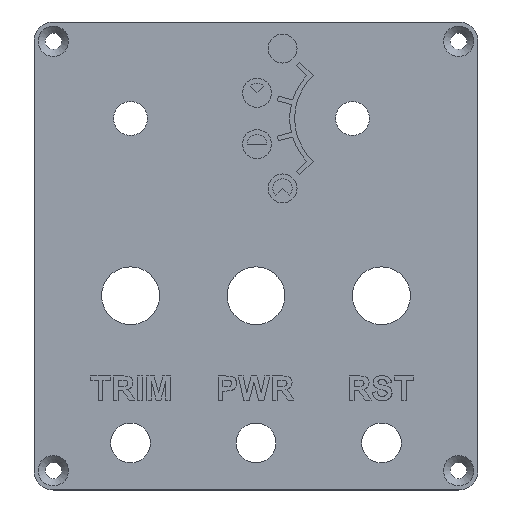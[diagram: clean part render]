
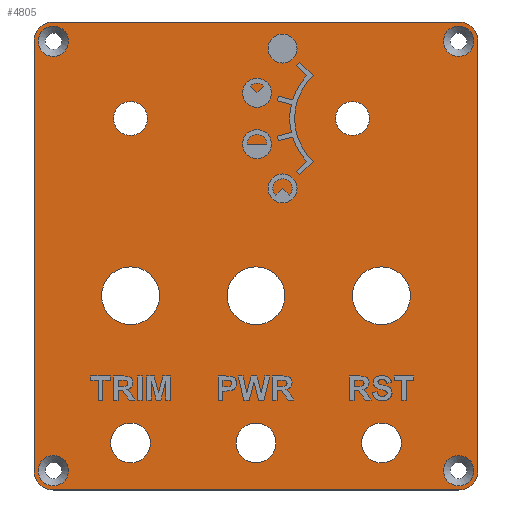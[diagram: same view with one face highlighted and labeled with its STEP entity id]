
A CAD part, top view. The second image highlights one B-rep face of the part: STEP entity #4805.
In plain terms, the highlighted planar face has unit normal (0, 0, 1).
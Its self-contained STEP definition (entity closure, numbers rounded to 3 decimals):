
#307=FACE_BOUND('',#964,.T.);
#308=FACE_BOUND('',#965,.T.);
#309=FACE_BOUND('',#966,.T.);
#310=FACE_BOUND('',#967,.T.);
#311=FACE_BOUND('',#968,.T.);
#312=FACE_BOUND('',#969,.T.);
#313=FACE_BOUND('',#970,.T.);
#314=FACE_BOUND('',#971,.T.);
#315=FACE_BOUND('',#972,.T.);
#316=FACE_BOUND('',#973,.T.);
#317=FACE_BOUND('',#974,.T.);
#318=FACE_BOUND('',#975,.T.);
#387=CIRCLE('',#5030,4.);
#388=CIRCLE('',#5033,4.);
#389=CIRCLE('',#5034,4.);
#390=CIRCLE('',#5035,4.);
#391=CIRCLE('',#5036,3.15);
#392=CIRCLE('',#5037,3.15);
#393=CIRCLE('',#5038,3.15);
#394=CIRCLE('',#5039,3.15);
#395=CIRCLE('',#5040,6.);
#396=CIRCLE('',#5041,4.125);
#397=CIRCLE('',#5042,4.125);
#398=CIRCLE('',#5043,6.);
#399=CIRCLE('',#5044,4.125);
#400=CIRCLE('',#5045,3.5);
#401=CIRCLE('',#5046,6.);
#402=CIRCLE('',#5047,3.5);
#687=FACE_OUTER_BOUND('',#963,.T.);
#963=EDGE_LOOP('',(#4297,#4298,#4299,#4300,#4301,#4302,#4303,#4304));
#964=EDGE_LOOP('',(#4305));
#965=EDGE_LOOP('',(#4306));
#966=EDGE_LOOP('',(#4307));
#967=EDGE_LOOP('',(#4308));
#968=EDGE_LOOP('',(#4309));
#969=EDGE_LOOP('',(#4310));
#970=EDGE_LOOP('',(#4311));
#971=EDGE_LOOP('',(#4312));
#972=EDGE_LOOP('',(#4313));
#973=EDGE_LOOP('',(#4314));
#974=EDGE_LOOP('',(#4315));
#975=EDGE_LOOP('',(#4316));
#1431=LINE('',#8804,#1881);
#1434=LINE('',#8810,#1884);
#1435=LINE('',#8814,#1885);
#1436=LINE('',#8818,#1886);
#1881=VECTOR('',#5862,10.);
#1884=VECTOR('',#5867,10.);
#1885=VECTOR('',#5870,10.);
#1886=VECTOR('',#5873,10.);
#2325=VERTEX_POINT('',#8797);
#2326=VERTEX_POINT('',#8799);
#2327=VERTEX_POINT('',#8803);
#2329=VERTEX_POINT('',#8809);
#2330=VERTEX_POINT('',#8811);
#2331=VERTEX_POINT('',#8813);
#2332=VERTEX_POINT('',#8815);
#2333=VERTEX_POINT('',#8817);
#2334=VERTEX_POINT('',#8820);
#2335=VERTEX_POINT('',#8822);
#2336=VERTEX_POINT('',#8824);
#2337=VERTEX_POINT('',#8826);
#2338=VERTEX_POINT('',#8828);
#2339=VERTEX_POINT('',#8830);
#2340=VERTEX_POINT('',#8832);
#2341=VERTEX_POINT('',#8834);
#2342=VERTEX_POINT('',#8836);
#2343=VERTEX_POINT('',#8838);
#2344=VERTEX_POINT('',#8840);
#2345=VERTEX_POINT('',#8842);
#2987=EDGE_CURVE('',#2325,#2326,#387,.T.);
#2989=EDGE_CURVE('',#2326,#2327,#1431,.T.);
#2992=EDGE_CURVE('',#2329,#2325,#1434,.T.);
#2993=EDGE_CURVE('',#2330,#2329,#388,.T.);
#2994=EDGE_CURVE('',#2331,#2330,#1435,.T.);
#2995=EDGE_CURVE('',#2332,#2331,#389,.T.);
#2996=EDGE_CURVE('',#2333,#2332,#1436,.T.);
#2997=EDGE_CURVE('',#2327,#2333,#390,.T.);
#2998=EDGE_CURVE('',#2334,#2334,#391,.T.);
#2999=EDGE_CURVE('',#2335,#2335,#392,.T.);
#3000=EDGE_CURVE('',#2336,#2336,#393,.T.);
#3001=EDGE_CURVE('',#2337,#2337,#394,.T.);
#3002=EDGE_CURVE('',#2338,#2338,#395,.T.);
#3003=EDGE_CURVE('',#2339,#2339,#396,.T.);
#3004=EDGE_CURVE('',#2340,#2340,#397,.T.);
#3005=EDGE_CURVE('',#2341,#2341,#398,.T.);
#3006=EDGE_CURVE('',#2342,#2342,#399,.T.);
#3007=EDGE_CURVE('',#2343,#2343,#400,.T.);
#3008=EDGE_CURVE('',#2344,#2344,#401,.T.);
#3009=EDGE_CURVE('',#2345,#2345,#402,.T.);
#4297=ORIENTED_EDGE('',*,*,#2987,.F.);
#4298=ORIENTED_EDGE('',*,*,#2992,.F.);
#4299=ORIENTED_EDGE('',*,*,#2993,.F.);
#4300=ORIENTED_EDGE('',*,*,#2994,.F.);
#4301=ORIENTED_EDGE('',*,*,#2995,.F.);
#4302=ORIENTED_EDGE('',*,*,#2996,.F.);
#4303=ORIENTED_EDGE('',*,*,#2997,.F.);
#4304=ORIENTED_EDGE('',*,*,#2989,.F.);
#4305=ORIENTED_EDGE('',*,*,#2998,.T.);
#4306=ORIENTED_EDGE('',*,*,#2999,.T.);
#4307=ORIENTED_EDGE('',*,*,#3000,.T.);
#4308=ORIENTED_EDGE('',*,*,#3001,.T.);
#4309=ORIENTED_EDGE('',*,*,#3002,.T.);
#4310=ORIENTED_EDGE('',*,*,#3003,.T.);
#4311=ORIENTED_EDGE('',*,*,#3004,.T.);
#4312=ORIENTED_EDGE('',*,*,#3005,.T.);
#4313=ORIENTED_EDGE('',*,*,#3006,.T.);
#4314=ORIENTED_EDGE('',*,*,#3007,.T.);
#4315=ORIENTED_EDGE('',*,*,#3008,.T.);
#4316=ORIENTED_EDGE('',*,*,#3009,.T.);
#4562=PLANE('',#5032);
#4805=ADVANCED_FACE('',(#687,#307,#308,#309,#310,#311,#312,#313,#314,#315,
#316,#317,#318),#4562,.T.);
#5030=AXIS2_PLACEMENT_3D('',#8800,#5857,#5858);
#5032=AXIS2_PLACEMENT_3D('',#8808,#5865,#5866);
#5033=AXIS2_PLACEMENT_3D('',#8812,#5868,#5869);
#5034=AXIS2_PLACEMENT_3D('',#8816,#5871,#5872);
#5035=AXIS2_PLACEMENT_3D('',#8819,#5874,#5875);
#5036=AXIS2_PLACEMENT_3D('',#8821,#5876,#5877);
#5037=AXIS2_PLACEMENT_3D('',#8823,#5878,#5879);
#5038=AXIS2_PLACEMENT_3D('',#8825,#5880,#5881);
#5039=AXIS2_PLACEMENT_3D('',#8827,#5882,#5883);
#5040=AXIS2_PLACEMENT_3D('',#8829,#5884,#5885);
#5041=AXIS2_PLACEMENT_3D('',#8831,#5886,#5887);
#5042=AXIS2_PLACEMENT_3D('',#8833,#5888,#5889);
#5043=AXIS2_PLACEMENT_3D('',#8835,#5890,#5891);
#5044=AXIS2_PLACEMENT_3D('',#8837,#5892,#5893);
#5045=AXIS2_PLACEMENT_3D('',#8839,#5894,#5895);
#5046=AXIS2_PLACEMENT_3D('',#8841,#5896,#5897);
#5047=AXIS2_PLACEMENT_3D('',#8843,#5898,#5899);
#5857=DIRECTION('center_axis',(0.,0.,-1.));
#5858=DIRECTION('ref_axis',(0.707,0.707,0.));
#5862=DIRECTION('',(0.,-1.,0.));
#5865=DIRECTION('center_axis',(0.,0.,1.));
#5866=DIRECTION('ref_axis',(1.,0.,0.));
#5867=DIRECTION('',(1.,0.,0.));
#5868=DIRECTION('center_axis',(0.,0.,-1.));
#5869=DIRECTION('ref_axis',(-0.707,0.707,0.));
#5870=DIRECTION('',(0.,1.,0.));
#5871=DIRECTION('center_axis',(0.,0.,-1.));
#5872=DIRECTION('ref_axis',(-0.707,-0.707,0.));
#5873=DIRECTION('',(-1.,0.,0.));
#5874=DIRECTION('center_axis',(0.,0.,-1.));
#5875=DIRECTION('ref_axis',(0.707,-0.707,0.));
#5876=DIRECTION('center_axis',(0.,0.,-1.));
#5877=DIRECTION('ref_axis',(1.,0.,0.));
#5878=DIRECTION('center_axis',(0.,0.,-1.));
#5879=DIRECTION('ref_axis',(1.,0.,0.));
#5880=DIRECTION('center_axis',(0.,0.,-1.));
#5881=DIRECTION('ref_axis',(1.,0.,0.));
#5882=DIRECTION('center_axis',(0.,0.,-1.));
#5883=DIRECTION('ref_axis',(1.,0.,0.));
#5884=DIRECTION('center_axis',(0.,0.,-1.));
#5885=DIRECTION('ref_axis',(1.,0.,0.));
#5886=DIRECTION('center_axis',(0.,0.,-1.));
#5887=DIRECTION('ref_axis',(1.,0.,0.));
#5888=DIRECTION('center_axis',(0.,0.,-1.));
#5889=DIRECTION('ref_axis',(1.,0.,0.));
#5890=DIRECTION('center_axis',(0.,0.,-1.));
#5891=DIRECTION('ref_axis',(1.,0.,0.));
#5892=DIRECTION('center_axis',(0.,0.,-1.));
#5893=DIRECTION('ref_axis',(1.,0.,0.));
#5894=DIRECTION('center_axis',(0.,0.,-1.));
#5895=DIRECTION('ref_axis',(1.,0.,0.));
#5896=DIRECTION('center_axis',(0.,0.,-1.));
#5897=DIRECTION('ref_axis',(1.,0.,0.));
#5898=DIRECTION('center_axis',(0.,0.,-1.));
#5899=DIRECTION('ref_axis',(1.,0.,0.));
#8797=CARTESIAN_POINT('',(68.,20.,0.));
#8799=CARTESIAN_POINT('',(72.,16.,0.));
#8800=CARTESIAN_POINT('Origin',(68.,16.,0.));
#8803=CARTESIAN_POINT('',(72.,-73.,0.));
#8804=CARTESIAN_POINT('',(72.,20.,0.));
#8808=CARTESIAN_POINT('Origin',(26.,-28.5,0.));
#8809=CARTESIAN_POINT('',(-16.,20.,0.));
#8810=CARTESIAN_POINT('',(-20.,20.,0.));
#8811=CARTESIAN_POINT('',(-20.,16.,0.));
#8812=CARTESIAN_POINT('Origin',(-16.,16.,0.));
#8813=CARTESIAN_POINT('',(-20.,-73.,0.));
#8814=CARTESIAN_POINT('',(-20.,-77.,0.));
#8815=CARTESIAN_POINT('',(-16.,-77.,0.));
#8816=CARTESIAN_POINT('Origin',(-16.,-73.,0.));
#8817=CARTESIAN_POINT('',(68.,-77.,0.));
#8818=CARTESIAN_POINT('',(72.,-77.,0.));
#8819=CARTESIAN_POINT('Origin',(68.,-73.,0.));
#8820=CARTESIAN_POINT('',(64.85,16.,0.));
#8821=CARTESIAN_POINT('Origin',(68.,16.,0.));
#8822=CARTESIAN_POINT('',(-19.15,-73.,0.));
#8823=CARTESIAN_POINT('Origin',(-16.,-73.,0.));
#8824=CARTESIAN_POINT('',(-19.15,16.,0.));
#8825=CARTESIAN_POINT('Origin',(-16.,16.,0.));
#8826=CARTESIAN_POINT('',(64.85,-73.,0.));
#8827=CARTESIAN_POINT('Origin',(68.,-73.,0.));
#8828=CARTESIAN_POINT('',(20.,-36.75,0.));
#8829=CARTESIAN_POINT('Origin',(26.,-36.75,0.));
#8830=CARTESIAN_POINT('',(21.875,-67.25,0.));
#8831=CARTESIAN_POINT('Origin',(26.,-67.25,0.));
#8832=CARTESIAN_POINT('',(-4.125,-67.25,0.));
#8833=CARTESIAN_POINT('Origin',(0.,-67.25,0.));
#8834=CARTESIAN_POINT('',(-6.,-36.75,0.));
#8835=CARTESIAN_POINT('Origin',(0.,-36.75,0.));
#8836=CARTESIAN_POINT('',(47.875,-67.25,0.));
#8837=CARTESIAN_POINT('Origin',(52.,-67.25,0.));
#8838=CARTESIAN_POINT('',(-3.5,0.,0.));
#8839=CARTESIAN_POINT('Origin',(0.,0.,0.));
#8840=CARTESIAN_POINT('',(46.,-36.75,0.));
#8841=CARTESIAN_POINT('Origin',(52.,-36.75,0.));
#8842=CARTESIAN_POINT('',(42.5,0.,0.));
#8843=CARTESIAN_POINT('Origin',(46.,0.,0.));
